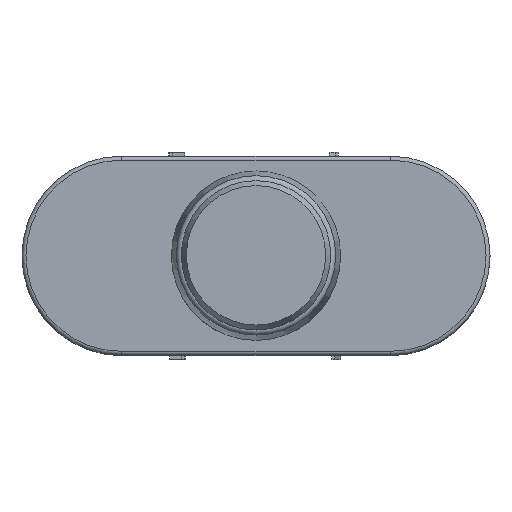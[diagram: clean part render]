
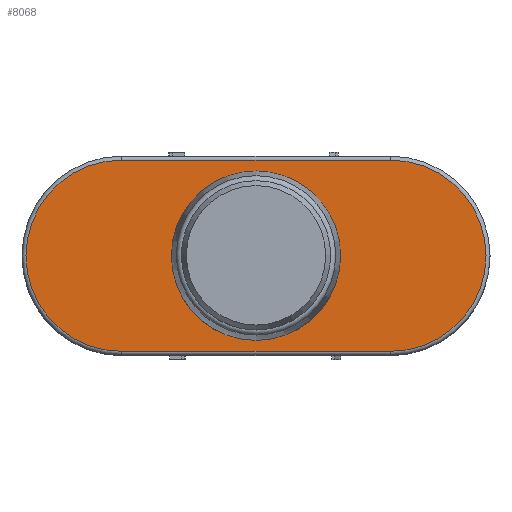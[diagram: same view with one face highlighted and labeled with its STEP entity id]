
A CAD part, top view. The second image highlights one B-rep face of the part: STEP entity #8068.
In plain terms, the highlighted planar face has unit normal (0, 0, 1).
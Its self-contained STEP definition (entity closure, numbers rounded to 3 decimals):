
#7199=CARTESIAN_POINT('',(0.0,4.25,5.675));
#7200=VERTEX_POINT('',#7199);
#7201=CARTESIAN_POINT('',(0.0,0.,5.675));
#7202=DIRECTION('',(0.0,0.0,-1.0));
#7203=DIRECTION('',(0.0,1.0,0.0));
#7204=AXIS2_PLACEMENT_3D('',#7201,#7202,#7203);
#7205=CIRCLE('',#7204,4.25);
#7206=EDGE_CURVE('',#7200,#7200,#7205,.T.);
#7888=CARTESIAN_POINT('',(-6.75,-4.8,5.675));
#7889=VERTEX_POINT('',#7888);
#7897=CARTESIAN_POINT('',(-6.75,4.8,5.675));
#7898=VERTEX_POINT('',#7897);
#7899=CARTESIAN_POINT('',(-6.75,0.,5.675));
#7900=DIRECTION('',(0.0,0.0,-1.0));
#7901=DIRECTION('',(-1.0,0.0,0.0));
#7902=AXIS2_PLACEMENT_3D('',#7899,#7900,#7901);
#7903=CIRCLE('',#7902,4.8);
#7904=EDGE_CURVE('',#7889,#7898,#7903,.T.);
#7922=CARTESIAN_POINT('',(6.75,-4.8,5.675));
#7923=VERTEX_POINT('',#7922);
#7931=CARTESIAN_POINT('',(6.75,-4.8,5.675));
#7932=DIRECTION('',(-1.0,0.0,0.0));
#7933=VECTOR('',#7932,13.5);
#7934=LINE('',#7931,#7933);
#7935=EDGE_CURVE('',#7923,#7889,#7934,.T.);
#7952=CARTESIAN_POINT('',(6.75,4.8,5.675));
#7953=VERTEX_POINT('',#7952);
#7963=CARTESIAN_POINT('',(-6.75,4.8,5.675));
#7964=DIRECTION('',(1.0,0.0,0.0));
#7965=VECTOR('',#7964,13.5);
#7966=LINE('',#7963,#7965);
#7967=EDGE_CURVE('',#7898,#7953,#7966,.T.);
#7980=CARTESIAN_POINT('',(6.75,0.,5.675));
#7981=DIRECTION('',(0.0,0.0,-1.0));
#7982=DIRECTION('',(1.0,0.0,0.0));
#7983=AXIS2_PLACEMENT_3D('',#7980,#7981,#7982);
#7984=CIRCLE('',#7983,4.8);
#7985=EDGE_CURVE('',#7953,#7923,#7984,.T.);
#8054=CARTESIAN_POINT('',(0.,0.,5.675));
#8055=DIRECTION('',(0.0,0.0,1.0));
#8056=DIRECTION('',(1.0,0.0,0.0));
#8057=AXIS2_PLACEMENT_3D('',#8054,#8055,#8056);
#8058=PLANE('',#8057);
#8059=ORIENTED_EDGE('',*,*,#7904,.F.);
#8060=ORIENTED_EDGE('',*,*,#7935,.F.);
#8061=ORIENTED_EDGE('',*,*,#7985,.F.);
#8062=ORIENTED_EDGE('',*,*,#7967,.F.);
#8063=EDGE_LOOP('',(#8059,#8060,#8061,#8062));
#8064=FACE_OUTER_BOUND('',#8063,.T.);
#8065=ORIENTED_EDGE('',*,*,#7206,.T.);
#8066=EDGE_LOOP('',(#8065));
#8067=FACE_BOUND('',#8066,.T.);
#8068=ADVANCED_FACE('',(#8064,#8067),#8058,.T.);
